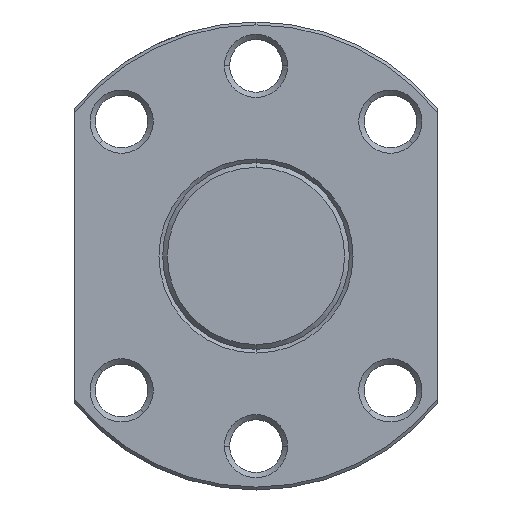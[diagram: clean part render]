
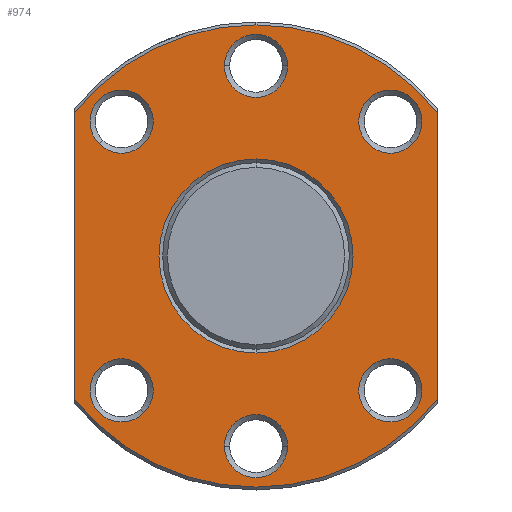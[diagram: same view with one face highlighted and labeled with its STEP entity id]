
A CAD part, left-side view. The second image highlights one B-rep face of the part: STEP entity #974.
In plain terms, the highlighted planar face has unit normal (-1, 0, 0).
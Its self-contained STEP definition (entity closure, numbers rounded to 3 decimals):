
#416=EDGE_CURVE('',#680,#732,#1151,.T.);
#422=VERTEX_POINT('',#1158);
#434=VERTEX_POINT('',#1170);
#454=VERTEX_POINT('',#1191);
#470=EDGE_CURVE('',#806,#792,#1208,.T.);
#522=EDGE_CURVE('',#656,#638,#1269,.T.);
#534=VERTEX_POINT('',#1285);
#544=EDGE_CURVE('',#978,#854,#1304,.T.);
#570=EDGE_CURVE('',#684,#454,#1333,.T.);
#618=VERTEX_POINT('',#1386);
#630=EDGE_CURVE('',#792,#806,#1400,.T.);
#638=VERTEX_POINT('',#1409);
#648=EDGE_CURVE('',#1036,#854,#1420,.T.);
#656=VERTEX_POINT('',#1428);
#680=VERTEX_POINT('',#1454);
#684=VERTEX_POINT('',#1458);
#704=EDGE_CURVE('',#978,#656,#1479,.T.);
#732=VERTEX_POINT('',#1510);
#754=EDGE_CURVE('',#434,#1036,#1537,.T.);
#766=EDGE_CURVE('',#1000,#534,#1550,.T.);
#770=EDGE_CURVE('',#434,#638,#1554,.T.);
#792=VERTEX_POINT('',#1580);
#794=VERTEX_POINT('',#1582);
#806=VERTEX_POINT('',#1596);
#834=EDGE_CURVE('',#732,#680,#1625,.T.);
#838=EDGE_CURVE('',#618,#794,#1629,.T.);
#840=VERTEX_POINT('',#1631);
#854=VERTEX_POINT('',#1646);
#878=EDGE_CURVE('',#928,#1076,#1674,.T.);
#904=EDGE_CURVE('',#422,#840,#1702,.T.);
#908=EDGE_CURVE('',#1076,#928,#1706,.T.);
#928=VERTEX_POINT('',#1727);
#948=EDGE_CURVE('',#534,#1000,#1749,.T.);
#956=EDGE_CURVE('',#840,#422,#1758,.T.);
#974=ADVANCED_FACE('',(#1782,#1783,#1784,#1785,#1786,#1787,#1788,#1789),#1790,.T.);
#978=VERTEX_POINT('',#1794);
#1000=VERTEX_POINT('',#1818);
#1036=VERTEX_POINT('',#1861);
#1058=EDGE_CURVE('',#794,#618,#1883,.T.);
#1076=VERTEX_POINT('',#1903);
#1090=EDGE_CURVE('',#454,#684,#1917,.T.);
#1151=CIRCLE('',#1993,5.4);
#1158=CARTESIAN_POINT('',(25.0,-26.799,-19.163));
#1170=CARTESIAN_POINT('',(25.0,-31.0,-24.483));
#1191=CARTESIAN_POINT('',(25.0,0.,-16.588));
#1208=CIRCLE('',#2068,5.4);
#1269=CIRCLE('',#2152,39.502);
#1285=CARTESIAN_POINT('',(25.0,26.799,19.163));
#1304=LINE('',#2193,#2194);
#1333=CIRCLE('',#2243,16.588);
#1386=CARTESIAN_POINT('',(25.0,5.4,-32.5));
#1400=CIRCLE('',#2330,5.4);
#1409=CARTESIAN_POINT('',(25.0,-31.0,24.483));
#1420=CIRCLE('',#2352,39.502);
#1428=CARTESIAN_POINT('',(25.0,0.,39.502));
#1454=CARTESIAN_POINT('',(25.0,19.163,-26.799));
#1458=CARTESIAN_POINT('',(25.0,0.0,16.588));
#1479=CIRCLE('',#2438,39.502);
#1510=CARTESIAN_POINT('',(25.0,26.799,-19.163));
#1537=CIRCLE('',#2513,39.502);
#1550=CIRCLE('',#2532,5.4);
#1554=LINE('',#2539,#2540);
#1580=CARTESIAN_POINT('',(25.0,-19.163,26.799));
#1582=CARTESIAN_POINT('',(25.0,-5.4,-32.5));
#1596=CARTESIAN_POINT('',(25.0,-26.799,19.163));
#1625=CIRCLE('',#2661,5.4);
#1629=CIRCLE('',#2667,5.4);
#1631=CARTESIAN_POINT('',(25.0,-19.163,-26.799));
#1646=CARTESIAN_POINT('',(25.0,31.0,-24.483));
#1674=CIRCLE('',#2720,5.4);
#1702=CIRCLE('',#2767,5.4);
#1706=CIRCLE('',#2772,5.4);
#1727=CARTESIAN_POINT('',(25.0,-5.4,32.5));
#1749=CIRCLE('',#2852,5.4);
#1758=CIRCLE('',#2864,5.4);
#1782=FACE_BOUND('',#2890,.T.);
#1783=FACE_OUTER_BOUND('',#2891,.T.);
#1784=FACE_BOUND('',#2892,.T.);
#1785=FACE_BOUND('',#2893,.T.);
#1786=FACE_BOUND('',#2894,.T.);
#1787=FACE_BOUND('',#2895,.T.);
#1788=FACE_BOUND('',#2896,.T.);
#1789=FACE_BOUND('',#2897,.T.);
#1790=PLANE('',#2898);
#1794=CARTESIAN_POINT('',(25.0,31.0,24.483));
#1818=CARTESIAN_POINT('',(25.0,19.163,26.799));
#1861=CARTESIAN_POINT('',(25.0,0.,-39.502));
#1883=CIRCLE('',#3024,5.4);
#1903=CARTESIAN_POINT('',(25.0,5.4,32.5));
#1917=CIRCLE('',#3115,16.588);
#1993=AXIS2_PLACEMENT_3D('',#3169,#3170,#3171);
#2068=AXIS2_PLACEMENT_3D('',#3222,#3223,#3224);
#2152=AXIS2_PLACEMENT_3D('',#3315,#3316,#3317);
#2193=CARTESIAN_POINT('',(25.0,31.0,9.876));
#2194=VECTOR('',#3378,1.0);
#2243=AXIS2_PLACEMENT_3D('',#3413,#3414,#3415);
#2330=AXIS2_PLACEMENT_3D('',#3499,#3500,#3501);
#2352=AXIS2_PLACEMENT_3D('',#3521,#3522,#3523);
#2438=AXIS2_PLACEMENT_3D('',#3565,#3566,#3567);
#2513=AXIS2_PLACEMENT_3D('',#3640,#3641,#3642);
#2532=AXIS2_PLACEMENT_3D('',#3661,#3662,#3663);
#2539=CARTESIAN_POINT('',(25.0,-31.0,9.876));
#2540=VECTOR('',#3665,1.0);
#2661=AXIS2_PLACEMENT_3D('',#3741,#3742,#3743);
#2667=AXIS2_PLACEMENT_3D('',#3747,#3748,#3749);
#2720=AXIS2_PLACEMENT_3D('',#3798,#3799,#3800);
#2767=AXIS2_PLACEMENT_3D('',#3831,#3832,#3833);
#2772=AXIS2_PLACEMENT_3D('',#3834,#3835,#3836);
#2852=AXIS2_PLACEMENT_3D('',#3888,#3889,#3890);
#2864=AXIS2_PLACEMENT_3D('',#3900,#3901,#3902);
#2890=EDGE_LOOP('',(#3962,#3963));
#2891=EDGE_LOOP('',(#3964,#3965,#3966,#3967,#3968,#3969));
#2892=EDGE_LOOP('',(#3970,#3971));
#2893=EDGE_LOOP('',(#3972,#3973));
#2894=EDGE_LOOP('',(#3974,#3975));
#2895=EDGE_LOOP('',(#3976,#3977));
#2896=EDGE_LOOP('',(#3978,#3979));
#2897=EDGE_LOOP('',(#3980,#3981));
#2898=AXIS2_PLACEMENT_3D('',#3982,#3983,#3984);
#3024=AXIS2_PLACEMENT_3D('',#4092,#4093,#4094);
#3115=AXIS2_PLACEMENT_3D('',#4129,#4130,#4131);
#3169=CARTESIAN_POINT('',(25.0,22.981,-22.981));
#3170=DIRECTION('',(1.0,0.0,0.));
#3171=DIRECTION('',(0.,-0.707,-0.707));
#3222=CARTESIAN_POINT('',(25.0,-22.981,22.981));
#3223=DIRECTION('',(1.0,0.0,0.));
#3224=DIRECTION('',(0.,0.707,0.707));
#3315=CARTESIAN_POINT('',(25.0,0.0,0.0));
#3316=DIRECTION('',(1.0,0.0,-0.0));
#3317=DIRECTION('',(0.0,0.0,1.0));
#3378=DIRECTION('',(0.,0.0,-1.0));
#3413=CARTESIAN_POINT('',(25.0,0.0,0.0));
#3414=DIRECTION('',(1.0,0.0,0.));
#3415=DIRECTION('',(0.,0.0,1.0));
#3499=CARTESIAN_POINT('',(25.0,-22.981,22.981));
#3500=DIRECTION('',(1.0,0.0,0.));
#3501=DIRECTION('',(0.,0.707,0.707));
#3521=CARTESIAN_POINT('',(25.0,0.0,0.0));
#3522=DIRECTION('',(1.0,0.0,-0.0));
#3523=DIRECTION('',(0.0,0.0,1.0));
#3565=CARTESIAN_POINT('',(25.0,0.0,0.0));
#3566=DIRECTION('',(1.0,0.0,-0.0));
#3567=DIRECTION('',(0.0,0.0,1.0));
#3640=CARTESIAN_POINT('',(25.0,0.0,0.0));
#3641=DIRECTION('',(1.0,0.0,-0.0));
#3642=DIRECTION('',(0.0,0.0,1.0));
#3661=CARTESIAN_POINT('',(25.0,22.981,22.981));
#3662=DIRECTION('',(1.0,0.0,0.));
#3663=DIRECTION('',(0.,0.707,-0.707));
#3665=DIRECTION('',(0.,0.0,1.0));
#3741=CARTESIAN_POINT('',(25.0,22.981,-22.981));
#3742=DIRECTION('',(1.0,0.0,0.));
#3743=DIRECTION('',(0.,-0.707,-0.707));
#3747=CARTESIAN_POINT('',(25.0,0.0,-32.5));
#3748=DIRECTION('',(1.0,0.0,0.));
#3749=DIRECTION('',(0.0,-1.0,0.0));
#3798=CARTESIAN_POINT('',(25.0,0.0,32.5));
#3799=DIRECTION('',(1.0,-0.0,0.));
#3800=DIRECTION('',(0.0,1.0,0.0));
#3831=CARTESIAN_POINT('',(25.0,-22.981,-22.981));
#3832=DIRECTION('',(1.0,0.0,0.));
#3833=DIRECTION('',(0.,-0.707,0.707));
#3834=CARTESIAN_POINT('',(25.0,0.0,32.5));
#3835=DIRECTION('',(1.0,-0.0,0.));
#3836=DIRECTION('',(0.0,1.0,0.0));
#3888=CARTESIAN_POINT('',(25.0,22.981,22.981));
#3889=DIRECTION('',(1.0,0.0,0.));
#3890=DIRECTION('',(0.,0.707,-0.707));
#3900=CARTESIAN_POINT('',(25.0,-22.981,-22.981));
#3901=DIRECTION('',(1.0,0.0,0.));
#3902=DIRECTION('',(0.,-0.707,0.707));
#3962=ORIENTED_EDGE('',*,*,#570,.T.);
#3963=ORIENTED_EDGE('',*,*,#1090,.T.);
#3964=ORIENTED_EDGE('',*,*,#544,.T.);
#3965=ORIENTED_EDGE('',*,*,#648,.F.);
#3966=ORIENTED_EDGE('',*,*,#754,.F.);
#3967=ORIENTED_EDGE('',*,*,#770,.T.);
#3968=ORIENTED_EDGE('',*,*,#522,.F.);
#3969=ORIENTED_EDGE('',*,*,#704,.F.);
#3970=ORIENTED_EDGE('',*,*,#904,.T.);
#3971=ORIENTED_EDGE('',*,*,#956,.T.);
#3972=ORIENTED_EDGE('',*,*,#1058,.T.);
#3973=ORIENTED_EDGE('',*,*,#838,.T.);
#3974=ORIENTED_EDGE('',*,*,#416,.T.);
#3975=ORIENTED_EDGE('',*,*,#834,.T.);
#3976=ORIENTED_EDGE('',*,*,#948,.T.);
#3977=ORIENTED_EDGE('',*,*,#766,.T.);
#3978=ORIENTED_EDGE('',*,*,#908,.T.);
#3979=ORIENTED_EDGE('',*,*,#878,.T.);
#3980=ORIENTED_EDGE('',*,*,#630,.T.);
#3981=ORIENTED_EDGE('',*,*,#470,.T.);
#3982=CARTESIAN_POINT('',(25.0,0.0,19.751));
#3983=DIRECTION('',(-1.0,-0.0,0.));
#3984=DIRECTION('',(0.,0.0,-1.0));
#4092=CARTESIAN_POINT('',(25.0,0.0,-32.5));
#4093=DIRECTION('',(1.0,0.0,0.));
#4094=DIRECTION('',(0.0,-1.0,0.0));
#4129=CARTESIAN_POINT('',(25.0,0.0,0.0));
#4130=DIRECTION('',(1.0,0.0,0.));
#4131=DIRECTION('',(0.,0.0,1.0));
